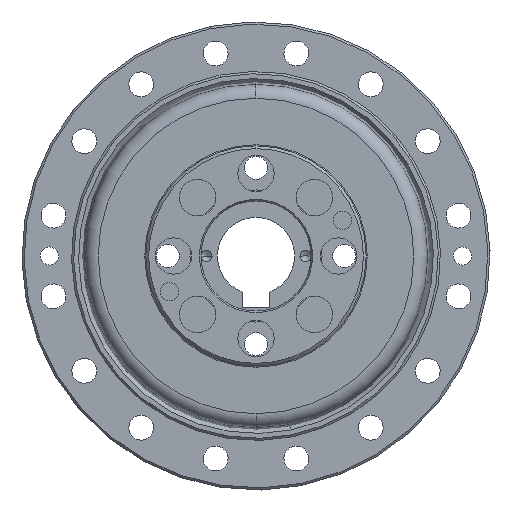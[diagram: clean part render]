
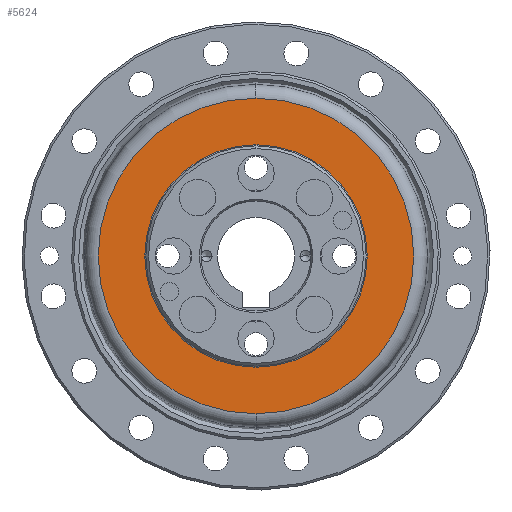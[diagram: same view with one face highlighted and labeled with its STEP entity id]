
A CAD part, left-side view. The second image highlights one B-rep face of the part: STEP entity #5624.
In plain terms, the highlighted planar face has unit normal (-1, 0, 0).
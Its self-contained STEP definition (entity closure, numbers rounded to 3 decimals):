
#415 = EDGE_LOOP ( 'NONE', ( #2713, #2032 ) ) ;
#466 = VERTEX_POINT ( 'NONE', #6110 ) ;
#496 = EDGE_CURVE ( 'NONE', #7528, #8036, #2402, .T. ) ;
#923 = DIRECTION ( 'NONE',  ( 1., 0., 0. ) ) ;
#1411 = DIRECTION ( 'NONE',  ( 1., 0., 0. ) ) ;
#1414 = DIRECTION ( 'NONE',  ( 0., 0., -1. ) ) ;
#1448 = CARTESIAN_POINT ( 'NONE',  ( -31.59, 0., 0. ) ) ;
#1994 = ORIENTED_EDGE ( 'NONE', *, *, #6216, .F. ) ;
#2032 = ORIENTED_EDGE ( 'NONE', *, *, #7795, .T. ) ;
#2166 = ORIENTED_EDGE ( 'NONE', *, *, #7831, .F. ) ;
#2215 = DIRECTION ( 'NONE',  ( 0., 0., -1. ) ) ;
#2250 = AXIS2_PLACEMENT_3D ( 'NONE', #6734, #6721, #5885 ) ;
#2402 = CIRCLE ( 'NONE', #4511, 20.2 ) ;
#2521 = DIRECTION ( 'NONE',  ( 0., 0., 1. ) ) ;
#2650 = FACE_BOUND ( 'NONE', #415, .T. ) ;
#2713 = ORIENTED_EDGE ( 'NONE', *, *, #496, .T. ) ;
#3255 = CARTESIAN_POINT ( 'NONE',  ( -31.59, 0., -20.2 ) ) ;
#3345 = CIRCLE ( 'NONE', #6372, 28.65 ) ;
#3515 = VERTEX_POINT ( 'NONE', #6762 ) ;
#3575 = DIRECTION ( 'NONE',  ( -1., 0., 0. ) ) ;
#4138 = PLANE ( 'NONE',  #5935 ) ;
#4185 = CIRCLE ( 'NONE', #2250, 28.65 ) ;
#4511 = AXIS2_PLACEMENT_3D ( 'NONE', #5285, #923, #1414 ) ;
#5285 = CARTESIAN_POINT ( 'NONE',  ( -31.59, 0., 0. ) ) ;
#5355 = AXIS2_PLACEMENT_3D ( 'NONE', #5991, #1411, #6760 ) ;
#5624 = ADVANCED_FACE ( 'NONE', ( #2650, #8775 ), #4138, .T. ) ;
#5885 = DIRECTION ( 'NONE',  ( 0., 0., -1. ) ) ;
#5935 = AXIS2_PLACEMENT_3D ( 'NONE', #6596, #3575, #2521 ) ;
#5991 = CARTESIAN_POINT ( 'NONE',  ( -31.59, 0., 0. ) ) ;
#6110 = CARTESIAN_POINT ( 'NONE',  ( -31.59, 0., -28.65 ) ) ;
#6216 = EDGE_CURVE ( 'NONE', #3515, #466, #4185, .T. ) ;
#6358 = CARTESIAN_POINT ( 'NONE',  ( -31.59, 0., 20.2 ) ) ;
#6372 = AXIS2_PLACEMENT_3D ( 'NONE', #1448, #6796, #2215 ) ;
#6596 = CARTESIAN_POINT ( 'NONE',  ( -31.59, 0., 0. ) ) ;
#6721 = DIRECTION ( 'NONE',  ( 1., 0., 0. ) ) ;
#6734 = CARTESIAN_POINT ( 'NONE',  ( -31.59, 0., 0. ) ) ;
#6760 = DIRECTION ( 'NONE',  ( 0., 0., -1. ) ) ;
#6762 = CARTESIAN_POINT ( 'NONE',  ( -31.59, 0., 28.65 ) ) ;
#6796 = DIRECTION ( 'NONE',  ( 1., 0., 0. ) ) ;
#6879 = EDGE_LOOP ( 'NONE', ( #2166, #1994 ) ) ;
#7528 = VERTEX_POINT ( 'NONE', #3255 ) ;
#7795 = EDGE_CURVE ( 'NONE', #8036, #7528, #9485, .T. ) ;
#7831 = EDGE_CURVE ( 'NONE', #466, #3515, #3345, .T. ) ;
#8036 = VERTEX_POINT ( 'NONE', #6358 ) ;
#8775 = FACE_OUTER_BOUND ( 'NONE', #6879, .T. ) ;
#9485 = CIRCLE ( 'NONE', #5355, 20.2 ) ;
